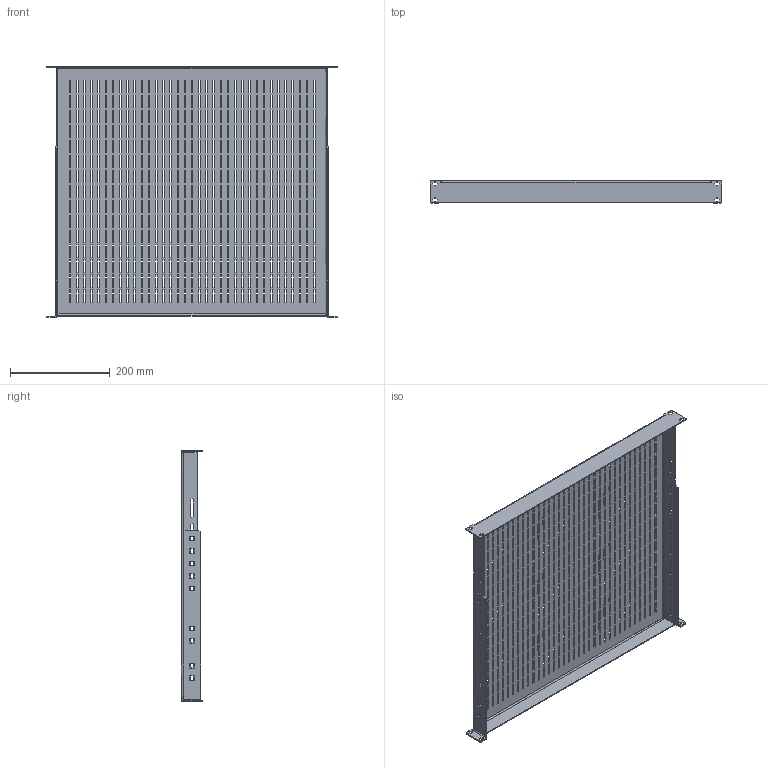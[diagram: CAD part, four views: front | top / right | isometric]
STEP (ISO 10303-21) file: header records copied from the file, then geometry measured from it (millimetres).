
FILE_DESCRIPTION((''),'2;1');
FILE_NAME('D:\scratch\ideas\p23vsh68b.stp','2006-12-08T11:16:29',( 'User'),('SDRC'),'I-DEAS Master Series 9','UNIX','Yes');
FILE_SCHEMA(('AUTOMOTIVE_DESIGN { 1 0 10303 214 0 1 1 1 }'));
Length unit declared in the file: inch
Products named in the file (3): 11055; shelf_1u_23x600_vented; 87747023
Assembly tree (3 placements, depth 2):
  11055
    shelf_1u_23x600_vented
    87747023  x2
Bounding box: 584.2 x 43.66 x 502.67 mm (x, y, z)
Volume: 597080 mm3; surface area: 703180.4 mm2
Topology: 3 solids, 3 shells, 2368 faces, 7039 edges, 4678 vertices
Faces by surface type: bspline 2368
Entity records: 71435 total; most frequent: CARTESIAN_POINT 28060, ORIENTED_EDGE 13696, EDGE_CURVE 6848, VERTEX_POINT 4552, QUASI_UNIFORM_CURVE 4501, EDGE_LOOP 3412, FACE_OUTER_BOUND 2300, ADVANCED_FACE 2300
